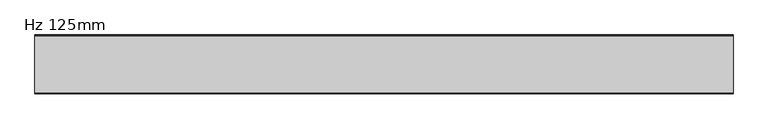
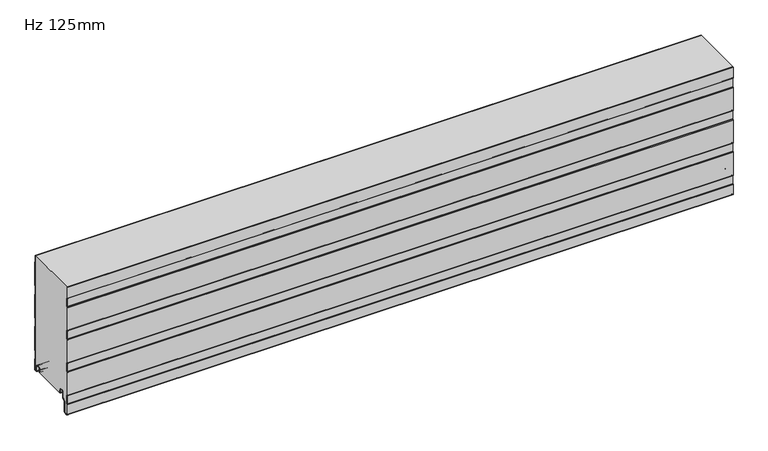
"""IFC4 building model written with IfcOpenShell, lengths in millimetres: plate geometry, KIP-MEX-KSS-1067-R19-CP-Hz-SL_SL : Hz 125mm."""

from ifc_helpers import new_model, si_unit, point, frame, frame_2d, origin, place, context, project, spatial, polyline, circle_curve, trimmed, segment, composite_curve, outline, extrude, source, transform, mapped, element, save
from ifc_brep_helpers import plane_surface, cylinder_surface, revolved_surface, advanced_brep


def hz_125mm_621c7a76(model_context):
    return source(origin(), model_context, "Body", "SolidModel", [
        advanced_brep(
        [(-740.0, -17.0015159, 2.0313088), (-740.0, -18.0015191, 1.0313116), (-740.0, -19.0015105, 2.0313088), (-740.0, -19.0015105, 6.0315125), (-740.0, -18.0015159, 6.0315125), (-740.0, -18.0015159, 8.7237223), (-740.0, -14.7015202, 12.023718), (-740.0, -10.301529, 12.023718), (-740.0, -7.0015335, 8.7237225), (-740.0, -7.0015335, -1.6962564), (-740.0, -5.2315393, -3.4662506), (-740.0, -0.9999916, -3.4662506), (-740.0, -0.9999916, 21.034026), (-740.0, -2.2002307, 22.4196686), (-740.0, -2.2002307, 41.7948349), (-740.0, -1.0, 43.1804679), (-740.0, -1.0, 97.2338833), (-740.0, -2.2002307, 98.6195162), (-740.0, -2.2002307, 117.9946825), (-740.0, -1.0, 119.3803155), (-740.0, -1.0, 173.4337309), (-740.0, -2.2002307, 174.8193638), (-740.0, -2.2002307, 194.1945301), (-740.0, -1.0, 195.5801631), (-740.0, -1.0, 249.6335785), (-740.0, -2.2002307, 251.0192114), (-740.0, -2.2002307, 266.0), (-740.0, -1.2002307, 266.0), (-740.0, -1.2002307, 251.3920919), (-740.0, -0.3417885, 250.4010442), (-740.0, 0.0, 249.4844273), (-740.0, 0.0, 195.7293142), (-740.0, -0.3417885, 194.8126973), (-740.0, -1.2002307, 193.8216497), (-740.0, -1.2002307, 175.1922443), (-740.0, -0.3417885, 174.2011966), (-740.0, 0.0, 173.2845797), (-740.0, 0.0, 119.5294666), (-740.0, -0.3417885, 118.6128497), (-740.0, -1.2002307, 117.6218021), (-740.0, -1.2002307, 98.9923967), (-740.0, -0.3417885, 98.001349), (-740.0, 0.0, 97.0847321), (-740.0, 0.0, 43.329619), (-740.0, -0.3417885, 42.4130021), (-740.0, -1.2002307, 41.4219545), (-740.0, -1.2002307, 22.7925491), (-740.0, -0.3417885, 21.8015014), (-740.0, 0.0, 20.8847931), (-740.0, 8.4e-06, -3.0662545), (-740.0, -1.3999878, -4.4662506), (-740.0, -5.2315393, -4.4662506), (-740.0, -8.0015335, -1.6962564), (-740.0, -8.0015335, 8.7237225), (-740.0, -10.301529, 11.023718), (-740.0, -14.7015202, 11.023718), (-740.0, -17.0015159, 8.7237223), (740.0, -17.0015159, 2.0313088), (740.0, -17.0015159, 8.7237223), (740.0, -14.7015202, 11.023718), (740.0, -10.301529, 11.023718), (740.0, -8.0015335, 8.7237225), (740.0, -8.0015335, -1.6962564), (740.0, -5.2315393, -4.4662506), (740.0, -1.3999878, -4.4662506), (740.0, 8.4e-06, -3.0662545), (740.0, 8.4e-06, 20.8848845), (740.0, -0.3417885, 21.8015014), (740.0, -1.2002307, 22.7925491), (740.0, -1.2002307, 41.4219545), (740.0, -0.3417885, 42.4130021), (740.0, 0.0, 43.329619), (740.0, 0.0, 97.0847321), (740.0, -0.3417885, 98.001349), (740.0, -1.2002307, 98.9923967), (740.0, -1.2002307, 117.6218021), (740.0, -0.3417885, 118.6128497), (740.0, 0.0, 119.5294666), (740.0, 0.0, 173.2845797), (740.0, -0.3417885, 174.2011966), (740.0, -1.2002307, 175.1922443), (740.0, -1.2002307, 193.8216497), (740.0, -0.3417885, 194.8126973), (740.0, 0.0, 195.7293142), (740.0, 0.0, 249.4844273), (740.0, -0.3417885, 250.4010442), (740.0, -1.2002307, 251.3920919), (740.0, -1.2002307, 266.0), (740.0, -2.2002307, 266.0), (740.0, -2.2002307, 251.0192114), (740.0, -1.0, 249.6335785), (740.0, -1.0, 195.5801631), (740.0, -2.2002307, 194.1945301), (740.0, -2.2002307, 174.8193638), (740.0, -1.0, 173.4337309), (740.0, -1.0, 119.3803155), (740.0, -2.2002307, 117.9946825), (740.0, -2.2002307, 98.6195162), (740.0, -1.0, 97.2338833), (740.0, -1.0, 43.1804679), (740.0, -2.2002307, 41.7948349), (740.0, -2.2002307, 22.4196686), (740.0, -0.9999916, 21.034026), (740.0, -0.9999916, -3.4662506), (740.0, -5.2315393, -3.4662506), (740.0, -7.0015335, -1.6962564), (740.0, -7.0015335, 8.7237225), (740.0, -10.301529, 12.023718), (740.0, -14.7015202, 12.023718), (740.0, -18.0015159, 8.7237223), (740.0, -18.0015159, 6.0315125), (740.0, -19.0015105, 6.0315125), (740.0, -19.0015105, 2.0313088), (740.0, -18.0015192, 1.0313116)],
        [
            (0, 1, circle_curve(frame((-740.0, -18.0015132, 2.0313088), z_axis=(-1.0, 0.0, 0.0), x_axis=(0.0, 0.0, 1.0)), 0.9999973)),
            (1, 2, circle_curve(frame((-740.0, -18.0015133, 2.0313088), z_axis=(-1.0, 0.0, 0.0), x_axis=(0.0, 0.0, 1.0)), 0.9999972)),
            (2, 3),
            (3, 4),
            (4, 5),
            (5, 6, circle_curve(frame((-740.0, -14.7015202, 8.7237223), z_axis=(-1.0, 0.0, 0.0), x_axis=(0.0, 0.0, 1.0)), 3.2999957)),
            (6, 7),
            (7, 8, circle_curve(frame((-740.0, -10.301529, 8.7237225), z_axis=(-1.0, 0.0, 0.0), x_axis=(0.0, 0.0, 1.0)), 3.2999955)),
            (8, 9),
            (9, 10, circle_curve(frame((-740.0, -5.2315393, -1.6962564), z_axis=(1.0, 0.0, 0.0), x_axis=(0.0, 0.0, 1.0)), 1.7699942)),
            (10, 11),
            (11, 12),
            (12, 13),
            (13, 14),
            (14, 15),
            (15, 16),
            (16, 17),
            (17, 18),
            (18, 19),
            (19, 20),
            (20, 21),
            (21, 22),
            (22, 23),
            (23, 24),
            (24, 25),
            (25, 26),
            (26, 27),
            (27, 28),
            (28, 29),
            (29, 30, circle_curve(frame((-740.0, -1.3999972, 249.4844273), z_axis=(-1.0, 0.0, 0.0), x_axis=(0.0, 0.0, 1.0)), 1.3999972)),
            (30, 31),
            (31, 32, circle_curve(frame((-740.0, -1.3999972, 195.7293142), z_axis=(-1.0, 0.0, 0.0), x_axis=(0.0, 0.0, 1.0)), 1.3999972)),
            (32, 33),
            (33, 34),
            (34, 35),
            (35, 36, circle_curve(frame((-740.0, -1.3999972, 173.2845797), z_axis=(-1.0, 0.0, 0.0), x_axis=(0.0, 0.0, 1.0)), 1.3999972)),
            (36, 37),
            (37, 38, circle_curve(frame((-740.0, -1.3999972, 119.5294666), z_axis=(-1.0, 0.0, 0.0), x_axis=(0.0, 0.0, 1.0)), 1.3999972)),
            (38, 39),
            (39, 40),
            (40, 41),
            (41, 42, circle_curve(frame((-740.0, -1.3999972, 97.0847321), z_axis=(-1.0, 0.0, 0.0), x_axis=(0.0, 0.0, 1.0)), 1.3999972)),
            (42, 43),
            (43, 44, circle_curve(frame((-740.0, -1.3999972, 43.329619), z_axis=(-1.0, 0.0, 0.0), x_axis=(0.0, 0.0, 1.0)), 1.3999972)),
            (44, 45),
            (45, 46),
            (46, 47),
            (47, 48, circle_curve(frame((-740.0, -1.3999972, 20.8848845), z_axis=(-1.0, 0.0, 0.0), x_axis=(0.0, 0.0, 1.0)), 1.3999972)),
            (48, 49),
            (49, 50, circle_curve(frame((-740.0, -1.3999878, -3.0662545), z_axis=(-1.0, 0.0, 0.0), x_axis=(0.0, 0.0, 1.0)), 1.3999962)),
            (50, 51),
            (51, 52, circle_curve(frame((-740.0, -5.2315393, -1.6962564), z_axis=(-1.0, 0.0, 0.0), x_axis=(0.0, 0.0, 1.0)), 2.7699942)),
            (52, 53),
            (53, 54, circle_curve(frame((-740.0, -10.301529, 8.7237225), z_axis=(1.0, 0.0, 0.0), x_axis=(0.0, 0.0, 1.0)), 2.2999955)),
            (54, 55),
            (55, 56, circle_curve(frame((-740.0, -14.7015202, 8.7237223), z_axis=(1.0, 0.0, 0.0), x_axis=(0.0, 0.0, 1.0)), 2.2999957)),
            (56, 0),
            (57, 58),
            (58, 59, circle_curve(frame((740.0, -14.7015202, 8.7237223), z_axis=(-1.0, 0.0, 0.0), x_axis=(0.0, 0.0, 1.0)), 2.2999957)),
            (59, 60),
            (60, 61, circle_curve(frame((740.0, -10.301529, 8.7237225), z_axis=(-1.0, 0.0, 0.0), x_axis=(0.0, 0.0, 1.0)), 2.2999955)),
            (61, 62),
            (62, 63, circle_curve(frame((740.0, -5.2315393, -1.6962564), z_axis=(1.0, 0.0, 0.0), x_axis=(0.0, 0.0, 1.0)), 2.7699942)),
            (63, 64),
            (64, 65, circle_curve(frame((740.0, -1.3999878, -3.0662545), z_axis=(1.0, 0.0, 0.0), x_axis=(0.0, 0.0, 1.0)), 1.3999962)),
            (65, 66),
            (66, 67, circle_curve(frame((740.0, -1.3999972, 20.8848845), z_axis=(1.0, 0.0, 0.0), x_axis=(0.0, 0.0, 1.0)), 1.3999972)),
            (67, 68),
            (68, 69),
            (69, 70),
            (70, 71, circle_curve(frame((740.0, -1.3999972, 43.329619), z_axis=(1.0, 0.0, 0.0), x_axis=(0.0, 0.0, 1.0)), 1.3999972)),
            (71, 72),
            (72, 73, circle_curve(frame((740.0, -1.3999972, 97.0847321), z_axis=(1.0, 0.0, 0.0), x_axis=(0.0, 0.0, 1.0)), 1.3999972)),
            (73, 74),
            (74, 75),
            (75, 76),
            (76, 77, circle_curve(frame((740.0, -1.3999972, 119.5294666), z_axis=(1.0, 0.0, 0.0), x_axis=(0.0, 0.0, 1.0)), 1.3999972)),
            (77, 78),
            (78, 79, circle_curve(frame((740.0, -1.3999972, 173.2845797), z_axis=(1.0, 0.0, 0.0), x_axis=(0.0, 0.0, 1.0)), 1.3999972)),
            (79, 80),
            (80, 81),
            (81, 82),
            (82, 83, circle_curve(frame((740.0, -1.3999972, 195.7293142), z_axis=(1.0, 0.0, 0.0), x_axis=(0.0, 0.0, 1.0)), 1.3999972)),
            (83, 84),
            (84, 85, circle_curve(frame((740.0, -1.3999972, 249.4844273), z_axis=(1.0, 0.0, 0.0), x_axis=(0.0, 0.0, 1.0)), 1.3999972)),
            (85, 86),
            (86, 87),
            (87, 88),
            (88, 89),
            (89, 90),
            (90, 91),
            (91, 92),
            (92, 93),
            (93, 94),
            (94, 95),
            (95, 96),
            (96, 97),
            (97, 98),
            (98, 99),
            (99, 100),
            (100, 101),
            (101, 102),
            (102, 103),
            (103, 104),
            (104, 105, circle_curve(frame((740.0, -5.2315393, -1.6962564), z_axis=(-1.0, 0.0, 0.0), x_axis=(0.0, 0.0, 1.0)), 1.7699942)),
            (105, 106),
            (106, 107, circle_curve(frame((740.0, -10.301529, 8.7237225), z_axis=(1.0, 0.0, 0.0), x_axis=(0.0, 0.0, 1.0)), 3.2999955)),
            (107, 108),
            (108, 109, circle_curve(frame((740.0, -14.7015202, 8.7237223), z_axis=(1.0, 0.0, 0.0), x_axis=(0.0, 0.0, 1.0)), 3.2999957)),
            (109, 110),
            (110, 111),
            (111, 112),
            (112, 113, circle_curve(frame((740.0, -18.0015133, 2.0313088), z_axis=(1.0, 0.0, 0.0), x_axis=(0.0, 0.0, 1.0)), 0.9999972)),
            (113, 57, circle_curve(frame((740.0, -18.0015132, 2.0313088), z_axis=(1.0, 0.0, 0.0), x_axis=(0.0, 0.0, 1.0)), 0.9999973)),
            (56, 58),
            (57, 0),
            (55, 59),
            (54, 60),
            (53, 61),
            (52, 62),
            (51, 63),
            (50, 64),
            (49, 65),
            (48, 66),
            (47, 67),
            (46, 68),
            (45, 69),
            (44, 70),
            (43, 71),
            (42, 72),
            (41, 73),
            (40, 74),
            (39, 75),
            (38, 76),
            (37, 77),
            (36, 78),
            (35, 79),
            (34, 80),
            (33, 81),
            (32, 82),
            (31, 83),
            (30, 84),
            (29, 85),
            (28, 86),
            (27, 87),
            (88, 26),
            (25, 89),
            (24, 90),
            (23, 91),
            (22, 92),
            (21, 93),
            (20, 94),
            (19, 95),
            (18, 96),
            (17, 97),
            (16, 98),
            (15, 99),
            (14, 100),
            (13, 101),
            (12, 102),
            (11, 103),
            (10, 104),
            (9, 105),
            (8, 106),
            (7, 107),
            (6, 108),
            (5, 109),
            (4, 110),
            (3, 111),
            (2, 112),
            (1, 113),
        ],
        [
            plane_surface(frame((-740.0, 0.0, 533.4), z_axis=(-1.0, 0.0, 0.0), x_axis=(0.0, 1.0, 0.0))),
            plane_surface(frame((740.0, 0.0, 533.4), z_axis=(1.0, 0.0, 0.0), x_axis=(0.0, 1.0, 0.0))),
            plane_surface(frame((-740.0, -17.0015159, 2.0313088), z_axis=(0.0, 1.0, 0.0), x_axis=(1.0, 0.0, 0.0))),
            revolved_surface(polyline([(740.0, -14.7015202, 11.023718), (-740.0, -14.7015202, 11.023718)]), (-740.0, -14.7015202, 8.7237223), (1.0, 0.0, 0.0)),
            plane_surface(frame((-740.0, -14.7015202, 11.023718), z_axis=(0.0, 0.0, -1.0), x_axis=(1.0, 0.0, 0.0))),
            revolved_surface(polyline([(740.0, -10.301529, 11.023717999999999), (-740.0, -10.301529, 11.023717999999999)]), (-740.0, -10.301529, 8.7237225), (1.0, 0.0, 0.0)),
            plane_surface(frame((-740.0, -8.0015335, 8.7237225), z_axis=(0.0, -1.0, 0.0), x_axis=(1.0, 0.0, 0.0))),
            cylinder_surface(frame((-740.0, -5.2315393, -1.6962564), z_axis=(-1.0, 0.0, 0.0), x_axis=(0.0, 0.0, 1.0)), 2.7699942),
            plane_surface(frame((-740.0, -5.2315393, -4.4662506), z_axis=(0.0, 0.0, -1.0), x_axis=(1.0, 0.0, 0.0))),
            cylinder_surface(frame((-740.0, -1.3999878, -3.0662545), z_axis=(-1.0, 0.0, 0.0), x_axis=(0.0, 0.0, 1.0)), 1.3999962),
            plane_surface(frame((-740.0, 8.4e-06, -3.0662545), z_axis=(0.0, 1.0, 0.0), x_axis=(1.0, 0.0, 0.0))),
            cylinder_surface(frame((-740.0, -1.3999972, 20.8848845), z_axis=(-1.0, 0.0, 0.0), x_axis=(0.0, 0.0, 1.0)), 1.3999972),
            plane_surface(frame((-740.0, -0.3417885, 21.8015014), z_axis=(0.0, 0.755864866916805, 0.6547276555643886), x_axis=(1.0, 0.0, 0.0))),
            plane_surface(frame((-740.0, -1.2002307, 32.1072518), z_axis=(0.0, 1.0, 0.0), x_axis=(1.0, 0.0, 0.0))),
            plane_surface(frame((-740.0, -1.2002307, 41.4219545), z_axis=(0.0, 0.755864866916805, -0.6547276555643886), x_axis=(1.0, 0.0, 0.0))),
            cylinder_surface(frame((-740.0, -1.3999972, 43.329619), z_axis=(-1.0, 0.0, 0.0), x_axis=(0.0, 0.0, 1.0)), 1.3999972),
            plane_surface(frame((-740.0, 0.0, 43.329619), z_axis=(0.0, 1.0, 0.0), x_axis=(1.0, 0.0, 0.0))),
            cylinder_surface(frame((-740.0, -1.3999972, 97.0847321), z_axis=(-1.0, 0.0, 0.0), x_axis=(0.0, 0.0, 1.0)), 1.3999972),
            plane_surface(frame((-740.0, -0.3417885, 98.001349), z_axis=(0.0, 0.755864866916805, 0.6547276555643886), x_axis=(1.0, 0.0, 0.0))),
            plane_surface(frame((-740.0, -1.2002307, 108.3070994), z_axis=(0.0, 1.0, 0.0), x_axis=(1.0, 0.0, 0.0))),
            plane_surface(frame((-740.0, -1.2002307, 117.6218021), z_axis=(0.0, 0.755864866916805, -0.6547276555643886), x_axis=(1.0, 0.0, 0.0))),
            cylinder_surface(frame((-740.0, -1.3999972, 119.5294666), z_axis=(-1.0, 0.0, 0.0), x_axis=(0.0, 0.0, 1.0)), 1.3999972),
            plane_surface(frame((-740.0, 0.0, 119.5294666), z_axis=(0.0, 1.0, 0.0), x_axis=(1.0, 0.0, 0.0))),
            cylinder_surface(frame((-740.0, -1.3999972, 173.2845797), z_axis=(-1.0, 0.0, 0.0), x_axis=(0.0, 0.0, 1.0)), 1.3999972),
            plane_surface(frame((-740.0, -0.3417885, 174.2011966), z_axis=(0.0, 0.755864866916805, 0.6547276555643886), x_axis=(1.0, 0.0, 0.0))),
            plane_surface(frame((-740.0, -1.2002307, 184.506947), z_axis=(0.0, 1.0, 0.0), x_axis=(1.0, 0.0, 0.0))),
            plane_surface(frame((-740.0, -1.2002307, 193.8216497), z_axis=(0.0, 0.755864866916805, -0.6547276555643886), x_axis=(1.0, 0.0, 0.0))),
            cylinder_surface(frame((-740.0, -1.3999972, 195.7293142), z_axis=(-1.0, 0.0, 0.0), x_axis=(0.0, 0.0, 1.0)), 1.3999972),
            plane_surface(frame((-740.0, 0.0, 195.7293142), z_axis=(0.0, 1.0, 0.0), x_axis=(1.0, 0.0, 0.0))),
            cylinder_surface(frame((-740.0, -1.3999972, 249.4844273), z_axis=(-1.0, 0.0, 0.0), x_axis=(0.0, 0.0, 1.0)), 1.3999972),
            plane_surface(frame((-740.0, -0.3417885, 250.4010442), z_axis=(0.0, 0.755864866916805, 0.6547276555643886), x_axis=(1.0, 0.0, 0.0))),
            plane_surface(frame((-740.0, -1.2002307, 260.7067946), z_axis=(0.0, 1.0, 0.0), x_axis=(1.0, 0.0, 0.0))),
            plane_surface(frame((-740.0, -2.2002307, 270.3943777), z_axis=(0.0, -1.0, 0.0), x_axis=(1.0, 0.0, 0.0))),
            plane_surface(frame((-740.0, -2.2002307, 251.0192114), z_axis=(0.0, -0.755864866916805, -0.6547276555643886), x_axis=(1.0, 0.0, 0.0))),
            plane_surface(frame((-740.0, -1.0, 249.6335785), z_axis=(0.0, -1.0, 0.0), x_axis=(1.0, 0.0, 0.0))),
            plane_surface(frame((-740.0, -1.0, 195.5801631), z_axis=(0.0, -0.755864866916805, 0.6547276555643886), x_axis=(1.0, 0.0, 0.0))),
            plane_surface(frame((-740.0, -2.2002307, 194.1945301), z_axis=(0.0, -1.0, 0.0), x_axis=(1.0, 0.0, 0.0))),
            plane_surface(frame((-740.0, -2.2002307, 174.8193638), z_axis=(0.0, -0.755864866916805, -0.6547276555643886), x_axis=(1.0, 0.0, 0.0))),
            plane_surface(frame((-740.0, -1.0, 173.4337309), z_axis=(0.0, -1.0, 0.0), x_axis=(1.0, 0.0, 0.0))),
            plane_surface(frame((-740.0, -1.0, 119.3803155), z_axis=(0.0, -0.755864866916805, 0.6547276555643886), x_axis=(1.0, 0.0, 0.0))),
            plane_surface(frame((-740.0, -2.2002307, 117.9946825), z_axis=(0.0, -1.0, 0.0), x_axis=(1.0, 0.0, 0.0))),
            plane_surface(frame((-740.0, -2.2002307, 98.6195162), z_axis=(0.0, -0.755864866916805, -0.6547276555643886), x_axis=(1.0, 0.0, 0.0))),
            plane_surface(frame((-740.0, -1.0, 97.2338833), z_axis=(0.0, -1.0, 0.0), x_axis=(1.0, 0.0, 0.0))),
            plane_surface(frame((-740.0, -1.0, 43.1804679), z_axis=(0.0, -0.755864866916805, 0.6547276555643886), x_axis=(1.0, 0.0, 0.0))),
            plane_surface(frame((-740.0, -2.2002307, 41.7948349), z_axis=(0.0, -1.0, 0.0), x_axis=(1.0, 0.0, 0.0))),
            plane_surface(frame((-740.0, -2.2002307, 22.4196686), z_axis=(0.0, -0.755864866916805, -0.6547276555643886), x_axis=(1.0, 0.0, 0.0))),
            plane_surface(frame((-740.0, -0.9999916, 21.034026), z_axis=(0.0, -1.0, 0.0), x_axis=(1.0, 0.0, 0.0))),
            plane_surface(frame((-740.0, -0.9999916, -3.4662506), z_axis=(0.0, 0.0, 1.0), x_axis=(1.0, 0.0, 0.0))),
            revolved_surface(polyline([(740.0, -5.2315393, 0.07373779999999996), (-740.0, -5.2315393, 0.07373779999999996)]), (-740.0, -5.2315393, -1.6962564), (1.0, 0.0, 0.0)),
            plane_surface(frame((-740.0, -7.0015335, -1.6962564), z_axis=(0.0, 1.0, 0.0), x_axis=(1.0, 0.0, 0.0))),
            cylinder_surface(frame((-740.0, -10.301529, 8.7237225), z_axis=(-1.0, 0.0, 0.0), x_axis=(0.0, 0.0, 1.0)), 3.2999955),
            plane_surface(frame((-740.0, -10.301529, 12.023718), z_axis=(0.0, 0.0, 1.0), x_axis=(1.0, 0.0, 0.0))),
            cylinder_surface(frame((-740.0, -14.7015202, 8.7237223), z_axis=(-1.0, 0.0, 0.0), x_axis=(0.0, 0.0, 1.0)), 3.2999957),
            plane_surface(frame((-740.0, -18.0015159, 8.7237223), z_axis=(0.0, -1.0, 0.0), x_axis=(1.0, 0.0, 0.0))),
            plane_surface(frame((-740.0, -18.0015159, 6.0315125), z_axis=(0.0, 0.0, 1.0), x_axis=(1.0, 0.0, 0.0))),
            plane_surface(frame((-740.0, -19.0015105, 6.0315125), z_axis=(0.0, -1.0, 0.0), x_axis=(1.0, 0.0, 0.0))),
            cylinder_surface(frame((-740.0, -18.0015133, 2.0313088), z_axis=(-1.0, 0.0, 0.0), x_axis=(0.0, 0.0, 1.0)), 0.9999972),
            cylinder_surface(frame((-740.0, -18.0015132, 2.0313088), z_axis=(-1.0, 0.0, 0.0), x_axis=(0.0, 0.0, 1.0)), 0.9999973),
            plane_surface(frame((740.0, 10.0, 266.0), z_axis=(0.0, 0.0, 1.0), x_axis=(-1.0, 0.0, 0.0))),
        ],
        [
            (0, [[1, 2, 3, 4, 5, 6, 7, 8, 9, 10, 11, 12, 13, 14, 15, 16, 17, 18, 19, 20, 21, 22, 23, 24, 25, 26, 27, 28, 29, 30, 31, 32, 33, 34, 35, 36, 37, 38, 39, 40, 41, 42, 43, 44, 45, 46, 47, 48, 49, 50, 51, 52, 53, 54, 55, 56, 57]]),
            (1, [[58, 59, 60, 61, 62, 63, 64, 65, 66, 67, 68, 69, 70, 71, 72, 73, 74, 75, 76, 77, 78, 79, 80, 81, 82, 83, 84, 85, 86, 87, 88, 89, 90, 91, 92, 93, 94, 95, 96, 97, 98, 99, 100, 101, 102, 103, 104, 105, 106, 107, 108, 109, 110, 111, 112, 113, 114]]),
            (2, [[115, -58, 116, -57]]),
            (3, [[117, -59, -115, -56]]),
            (4, [[118, -60, -117, -55]]),
            (5, [[119, -61, -118, -54]]),
            (6, [[120, -62, -119, -53]]),
            (7, [[121, -63, -120, -52]]),
            (8, [[122, -64, -121, -51]]),
            (9, [[123, -65, -122, -50]]),
            (10, [[124, -66, -123, -49]]),
            (11, [[125, -67, -124, -48]]),
            (12, [[126, -68, -125, -47]]),
            (13, [[127, -69, -126, -46]]),
            (14, [[128, -70, -127, -45]]),
            (15, [[129, -71, -128, -44]]),
            (16, [[130, -72, -129, -43]]),
            (17, [[131, -73, -130, -42]]),
            (18, [[132, -74, -131, -41]]),
            (19, [[133, -75, -132, -40]]),
            (20, [[134, -76, -133, -39]]),
            (21, [[135, -77, -134, -38]]),
            (22, [[136, -78, -135, -37]]),
            (23, [[137, -79, -136, -36]]),
            (24, [[138, -80, -137, -35]]),
            (25, [[139, -81, -138, -34]]),
            (26, [[140, -82, -139, -33]]),
            (27, [[141, -83, -140, -32]]),
            (28, [[142, -84, -141, -31]]),
            (29, [[143, -85, -142, -30]]),
            (30, [[144, -86, -143, -29]]),
            (31, [[-28, 145, -87, -144]]),
            (32, [[-89, 146, -26, 147]]),
            (33, [[148, -90, -147, -25]]),
            (34, [[149, -91, -148, -24]]),
            (35, [[150, -92, -149, -23]]),
            (36, [[151, -93, -150, -22]]),
            (37, [[152, -94, -151, -21]]),
            (38, [[153, -95, -152, -20]]),
            (39, [[154, -96, -153, -19]]),
            (40, [[155, -97, -154, -18]]),
            (41, [[156, -98, -155, -17]]),
            (42, [[157, -99, -156, -16]]),
            (43, [[158, -100, -157, -15]]),
            (44, [[159, -101, -158, -14]]),
            (45, [[160, -102, -159, -13]]),
            (46, [[161, -103, -160, -12]]),
            (47, [[162, -104, -161, -11]]),
            (48, [[163, -105, -162, -10]]),
            (49, [[164, -106, -163, -9]]),
            (50, [[165, -107, -164, -8]]),
            (51, [[166, -108, -165, -7]]),
            (52, [[167, -109, -166, -6]]),
            (53, [[168, -110, -167, -5]]),
            (54, [[169, -111, -168, -4]]),
            (55, [[170, -112, -169, -3]]),
            (56, [[171, -113, -170, -2]]),
            (57, [[-116, -114, -171, -1]]),
            (58, [[-146, -88, -145, -27]]),
        ],
    ),
        extrude(outline(composite_curve([segment(trimmed(circle_curve(frame_2d((-123.6007733, -10.6415934)), 1.3998661), [point((-125.0006394, -10.6415934))], [point((-124.5333971, -9.5976403))], False, "CARTESIAN"), True, "CONTINUOUS"), segment(polyline([(-124.5333971, -9.5976403), (-123.8006709, -8.8649141), (-123.8006709, 10.0260713), (-124.5336365, 10.7590369)]), True, "CONTINUOUS"), segment(trimmed(circle_curve(frame_2d((-123.6009253, 11.8030877)), 1.3999972), [point((-124.5336365, 10.7590369))], [point((-125.0009016, 11.810741))], False, "CARTESIAN"), True, "CONTINUOUS"), segment(polyline([(-125.0009016, 11.810741), (-125.0009016, 65.5582542)]), True, "CONTINUOUS"), segment(trimmed(circle_curve(frame_2d((-123.6009044, 65.5582542)), 1.3999972), [point((-125.0009016, 65.5582542))], [point((-124.5336156, 66.602305))], False, "CARTESIAN"), True, "CONTINUOUS"), segment(polyline([(-124.5336156, 66.602305), (-123.8006709, 67.3352497), (-123.8006709, 86.2259189), (-124.5336365, 86.9588845)]), True, "CONTINUOUS"), segment(trimmed(circle_curve(frame_2d((-123.6009253, 88.0029353)), 1.3999972), [point((-124.5336365, 86.9588845))], [point((-125.0009016, 88.0105886))], False, "CARTESIAN"), True, "CONTINUOUS"), segment(polyline([(-125.0009016, 88.0105886), (-125.0009016, 141.7581018)]), True, "CONTINUOUS"), segment(trimmed(circle_curve(frame_2d((-123.6009044, 141.7581018)), 1.3999972), [point((-125.0009016, 141.7581018))], [point((-124.5336156, 142.8021526))], False, "CARTESIAN"), True, "CONTINUOUS"), segment(polyline([(-124.5336156, 142.8021526), (-123.8006709, 143.5350973), (-123.8006709, 162.4257665), (-124.5336365, 163.1587321)]), True, "CONTINUOUS"), segment(trimmed(circle_curve(frame_2d((-123.6009253, 164.2027829)), 1.3999972), [point((-124.5336365, 163.1587321))], [point((-125.0009016, 164.2104362))], False, "CARTESIAN"), True, "CONTINUOUS"), segment(polyline([(-125.0009016, 164.2104362), (-125.0009016, 217.9579494)]), True, "CONTINUOUS"), segment(trimmed(circle_curve(frame_2d((-123.6009044, 217.9579494)), 1.3999972), [point((-125.0009016, 217.9579494))], [point((-124.5336156, 219.0020002))], False, "CARTESIAN"), True, "CONTINUOUS"), segment(polyline([(-124.5336156, 219.0020002), (-123.8006709, 219.7349449), (-123.8006709, 238.6256141), (-124.5336365, 239.3585797)]), True, "CONTINUOUS"), segment(trimmed(circle_curve(frame_2d((-123.6009253, 240.4026305)), 1.3999972), [point((-124.5336365, 239.3585797))], [point((-125.0009016, 240.4102838))], False, "CARTESIAN"), True, "CONTINUOUS"), segment(polyline([(-125.0009016, 240.4102838), (-125.0009016, 266.0), (-124.0009016, 266.0), (-124.0009016, 240.2405326), (-122.8006709, 239.0403019), (-122.8006709, 219.3208894), (-124.0009016, 218.1206587), (-124.0009016, 164.0405269), (-122.8006709, 162.8402962), (-122.8006709, 143.1208837), (-124.0009016, 141.920653), (-124.0009016, 87.8405213), (-122.8006709, 86.6402905), (-122.8006709, 66.920878), (-124.0009016, 65.7206473), (-124.0009016, 11.6405156), (-122.8006709, 10.4402849), (-122.8006709, -9.2791277), (-124.0006394, -10.4790962), (-124.0006394, -32.4521176)]), True, "CONTINUOUS"), segment(trimmed(circle_curve(frame_2d((-121.4304001, -32.4521176)), 2.5702393), [point((-124.0006394, -32.4521176))], [point((-121.2063145, -35.0125699))], True, "CARTESIAN"), True, "CONTINUOUS"), segment(polyline([(-121.2063145, -35.0125699), (-116.2244936, -34.5765709)]), True, "CONTINUOUS"), segment(trimmed(circle_curve(frame_2d((-116.7058842, -31.9198392)), 2.6999926), [point((-116.2244936, -34.5765709))], [point((-114.0058916, -31.9198392))], True, "CARTESIAN"), True, "CONTINUOUS"), segment(polyline([(-114.0058916, -31.9198392), (-114.0058916, -9.8247096), (-108.5038205, -4.3226385)]), True, "CONTINUOUS"), segment(trimmed(circle_curve(frame_2d((-109.7058982, -3.1205608)), 1.6999946), [point((-108.5038205, -4.3226385))], [point((-108.0059036, -3.1205608))], True, "CARTESIAN"), True, "CONTINUOUS"), segment(polyline([(-108.0059036, -3.1205608), (-108.0059036, 8.6903283)]), True, "CONTINUOUS"), segment(trimmed(circle_curve(frame_2d((-104.6559083, 8.6903283)), 3.3499953), [point((-108.0059036, 8.6903283))], [point((-104.6559083, 12.0403236))], False, "CARTESIAN"), True, "CONTINUOUS"), segment(polyline([(-104.6559083, 12.0403236), (-100.2559171, 12.0403236)]), True, "CONTINUOUS"), segment(trimmed(circle_curve(frame_2d((-100.2559171, 8.6903283)), 3.3499953), [point((-100.2559171, 12.0403236))], [point((-96.9059218, 8.6903283))], False, "CARTESIAN"), True, "CONTINUOUS"), segment(polyline([(-96.9059218, 8.6903283), (-96.9059218, 5.9912173), (-95.5074429, 5.9912173), (-95.5074429, 2.2328239)]), True, "CONTINUOUS"), segment(trimmed(circle_curve(frame_2d((-96.7074396, 2.2313092)), 1.1999976), [point((-95.5074429, 2.2328239))], [point((-96.6769177, 1.0316999))], False, "CARTESIAN"), True, "CONTINUOUS"), segment(trimmed(circle_curve(frame_2d((-96.7074396, 2.2313092)), 1.1999976), [point((-96.6769177, 1.0316999))], [point((-97.9059218, 2.1710221))], False, "CARTESIAN"), True, "CONTINUOUS"), segment(polyline([(-97.9059218, 2.1710221), (-97.9059218, 8.6903283)]), True, "CONTINUOUS"), segment(trimmed(circle_curve(frame_2d((-100.2559171, 8.6903283)), 2.3499953), [point((-97.9059218, 8.6903283))], [point((-100.2559171, 11.0403236))], True, "CARTESIAN"), True, "CONTINUOUS"), segment(polyline([(-100.2559171, 11.0403236), (-104.6559083, 11.0403236)]), True, "CONTINUOUS"), segment(trimmed(circle_curve(frame_2d((-104.6559083, 8.6903283)), 2.3499953), [point((-104.6559083, 11.0403236))], [point((-107.0059036, 8.6903283))], True, "CARTESIAN"), True, "CONTINUOUS"), segment(polyline([(-107.0059036, 8.6903283), (-107.0059036, -3.1205608)]), True, "CONTINUOUS"), segment(trimmed(circle_curve(frame_2d((-109.7058982, -3.1205608)), 2.6999946), [point((-107.0059036, -3.1205608))], [point((-107.7967137, -5.0297453))], False, "CARTESIAN"), True, "CONTINUOUS"), segment(polyline([(-107.7967137, -5.0297453), (-112.6251312, -9.8581627)]), True, "CONTINUOUS"), segment(trimmed(circle_curve(frame_2d((-111.7058942, -10.7773997)), 1.2999974), [point((-112.6251312, -9.8581627))], [point((-113.0058916, -10.7773997))], True, "CARTESIAN"), True, "CONTINUOUS"), segment(polyline([(-113.0058916, -10.7773997), (-113.0058916, -31.9198392)]), True, "CONTINUOUS"), segment(trimmed(circle_curve(frame_2d((-116.7058842, -31.9198392)), 3.6999926), [point((-113.0058916, -31.9198392))], [point((-116.0950831, -35.5690675))], False, "CARTESIAN"), True, "CONTINUOUS"), segment(polyline([(-116.0950831, -35.5690675), (-121.1191297, -36.008762)]), True, "CONTINUOUS"), segment(trimmed(circle_curve(frame_2d((-121.4304001, -32.4521176)), 3.5702393), [point((-121.1191297, -36.008762))], [point((-125.0006394, -32.4521176))], False, "CARTESIAN"), True, "CONTINUOUS"), segment(polyline([(-125.0006394, -32.4521176), (-125.0006394, -10.6415934)]), True, "CONTINUOUS")], self_intersect=False)), frame((-740.0, 0.0, 0.0), z_axis=(1.0, 0.0, 0.0), x_axis=(0.0, 1.0, 0.0)), (0.0, 0.0, 1.0), 1480.0),
        extrude(outline(composite_curve([segment(trimmed(circle_curve(frame_2d((-96.7013969, 2.2313092)), 1.1999976), [point((-96.670875, 1.0316999))], [point((-95.5014003, 2.2328239))], True, "CARTESIAN"), True, "CONTINUOUS"), segment(polyline([(-95.5014003, 2.2328239), (-95.5014003, 5.9912173), (-96.8998791, 5.9912173), (-96.8998791, 8.6903283)]), True, "CONTINUOUS"), segment(trimmed(circle_curve(frame_2d((-100.2498744, 8.6903283)), 3.3499953), [point((-96.8998791, 8.6903283))], [point((-100.2498744, 12.0403236))], True, "CARTESIAN"), True, "CONTINUOUS"), segment(polyline([(-100.2498744, 12.0403236), (-104.6498656, 12.0403236)]), True, "CONTINUOUS"), segment(trimmed(circle_curve(frame_2d((-104.6498656, 8.6903283)), 3.3499953), [point((-104.6498656, 12.0403236))], [point((-107.9998609, 8.6903283))], True, "CARTESIAN"), True, "CONTINUOUS"), segment(polyline([(-107.9998609, 8.6903283), (-107.9998609, -3.1205608)]), True, "CONTINUOUS"), segment(trimmed(circle_curve(frame_2d((-109.6998555, -3.1205608)), 1.6999946), [point((-107.9998609, -3.1205608))], [point((-108.4977778, -4.3226385))], False, "CARTESIAN"), True, "CONTINUOUS"), segment(polyline([(-108.4977778, -4.3226385), (-113.9998489, -9.8247096), (-113.9998489, -31.9198392)]), True, "CONTINUOUS"), segment(trimmed(circle_curve(frame_2d((-116.6998415, -31.9198392)), 2.6999926), [point((-113.9998489, -31.9198392))], [point((-116.2184509, -34.5765709))], False, "CARTESIAN"), True, "CONTINUOUS"), segment(polyline([(-116.2184509, -34.5765709), (-121.2002718, -35.0125699)]), True, "CONTINUOUS"), segment(trimmed(circle_curve(frame_2d((-121.4243575, -32.4521176)), 2.5702393), [point((-121.2002718, -35.0125699))], [point((-123.9945967, -32.4521176))], False, "CARTESIAN"), True, "CONTINUOUS"), segment(polyline([(-123.9945967, -32.4521176), (-123.9945967, -10.4790962), (-122.7946282, -9.2791277), (-122.7946282, 10.4402849), (-123.9948589, 11.6405156), (-123.9948589, 65.7206473), (-122.7946282, 66.920878), (-122.7946282, 86.6402905), (-123.9948589, 87.8405213), (-123.9948589, 141.920653), (-122.7946282, 143.1208837), (-122.7946282, 162.8402962), (-123.9948589, 164.0405269), (-123.9948589, 218.1206587), (-122.7946282, 219.3208894), (-122.7946282, 239.0403019), (-123.9948589, 240.2405326), (-123.9948589, 266.0), (-2.2002307, 266.0), (-2.2002307, 251.0192115), (-1.0, 249.6335785), (-1.0, 195.5801631), (-2.2002307, 194.1945302), (-2.2002307, 174.8193639), (-1.0, 173.4337309), (-1.0, 119.3803155), (-2.2002307, 117.9946826), (-2.2002307, 98.6195163), (-1.0, 97.2338833), (-1.0, 43.1804679), (-2.2002307, 41.794835), (-2.2002307, 22.4196687), (-0.9999916, 21.034026), (-0.9999916, -3.4662506), (-5.2315389, -3.4662506)]), True, "CONTINUOUS"), segment(trimmed(circle_curve(frame_2d((-5.2315389, -1.6962564)), 1.7699942), [point((-5.2315389, -3.4662506))], [point((-7.0015331, -1.6962564))], False, "CARTESIAN"), True, "CONTINUOUS"), segment(polyline([(-7.0015331, -1.6962564), (-7.0015331, 8.7237222)]), True, "CONTINUOUS"), segment(trimmed(circle_curve(frame_2d((-10.301529, 8.7237222)), 3.2999959), [point((-7.0015331, 8.7237222))], [point((-10.301529, 12.023718))], True, "CARTESIAN"), True, "CONTINUOUS"), segment(polyline([(-10.301529, 12.023718), (-14.7015202, 12.023718)]), True, "CONTINUOUS"), segment(trimmed(circle_curve(frame_2d((-14.7015202, 8.7237223)), 3.2999957), [point((-14.7015202, 12.023718))], [point((-18.0015159, 8.7237223))], True, "CARTESIAN"), True, "CONTINUOUS"), segment(polyline([(-18.0015159, 8.7237223), (-18.0015159, 6.0315125), (-19.0015105, 6.0315125), (-19.0015105, 2.0313089)]), True, "CONTINUOUS"), segment(trimmed(circle_curve(frame_2d((-18.0015133, 2.0313089)), 0.9999972), [point((-19.0015105, 2.0313089))], [point((-18.0015192, 1.0313117))], True, "CARTESIAN"), True, "CONTINUOUS"), segment(polyline([(-18.0015192, 1.0313117), (-19.0328308, 0.0), (-95.6391751, 0.0), (-96.670875, 1.0316999)]), True, "CONTINUOUS")], self_intersect=False)), frame((-740.0, 0.0, 0.0), z_axis=(1.0, 0.0, 0.0), x_axis=(0.0, 1.0, 0.0)), (0.0, 0.0, 1.0), 1480.0),
    ])


if __name__ == "__main__":
    model = new_model("IFC4")
    model_context = context("Model", 3, world=origin())
    ifc_project = project(units=[si_unit("LENGTHUNIT", "METRE", prefix="MILLI")], contexts=[model_context])
    site = spatial("IfcSite", under=ifc_project)
    building = spatial("IfcBuilding", under=site)
    placement = place(None, origin())
    hz_125mm_shape = hz_125mm_621c7a76(model_context)
    element("IfcPlate", 1, ObjectType="KIP-MEX-KSS-1067-R19-CP-Hz-SL_SL : Hz 125mm", at=placement, inside=building, context=model_context, shape_type="MappedRepresentation", body=[
        mapped(hz_125mm_shape, transform((0.0, 0.0, 0.0), x_axis=(1.0, 0.0, 0.0), y_axis=(0.0, 1.0, 0.0), z_axis=(0.0, 0.0, 1.0))),
    ])
    save(model, "model.ifc")
